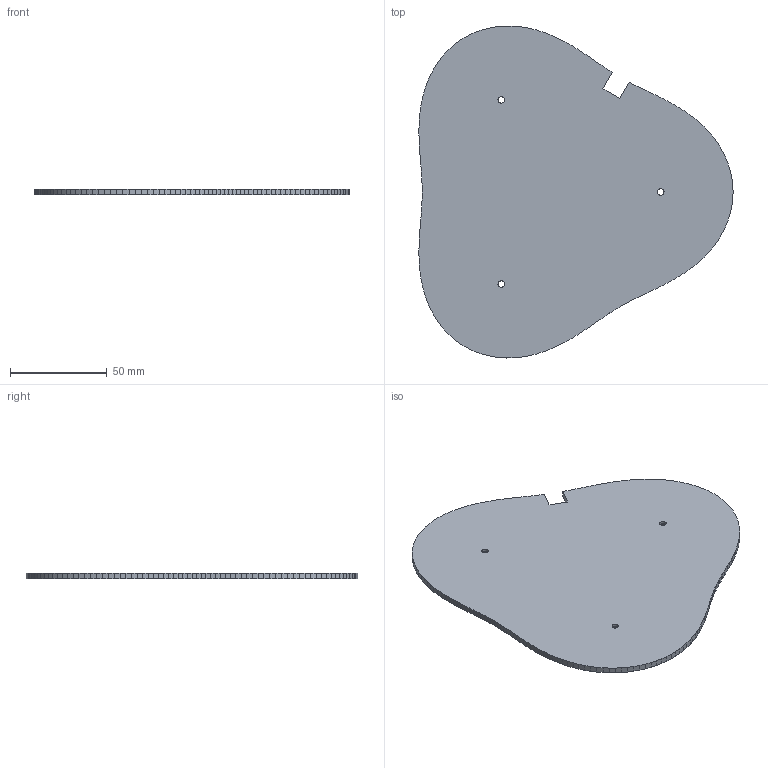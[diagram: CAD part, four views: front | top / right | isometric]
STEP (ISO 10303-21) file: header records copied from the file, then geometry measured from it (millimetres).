
FILE_DESCRIPTION(('Open CASCADE Model'),'2;1');
FILE_NAME('Open CASCADE Shape Model','2026-10-15T22:00:35',('Author'),( 'Open CASCADE'),'Open CASCADE STEP processor 7.9','Open CASCADE 7.9' ,'Unknown');
FILE_SCHEMA(('AUTOMOTIVE_DESIGN { 1 0 10303 214 1 1 1 1 }'));
Length unit declared in the file: millimetre
Products named in the file (1): Open CASCADE STEP translator 7.9 2
Bounding box: 162.46 x 171.72 x 3 mm (x, y, z)
Volume: 60849.1 mm3; surface area: 42696.5 mm2
Topology: 1 solids, 1 shells, 196 faces, 564 edges, 376 vertices
Faces by surface type: plane 187, cylinder 9
Full cylindrical faces by diameter (mm): 3.4 x3, 6.4 x3, 10.4 x3
Entity records: 13665 total; most frequent: CARTESIAN_POINT 2287, DIRECTION 2097, LINE 1652, VECTOR 1652, ORIENTED_EDGE 1128, PCURVE 1128, DEFINITIONAL_REPRESENTATION 1128, EDGE_CURVE 564
